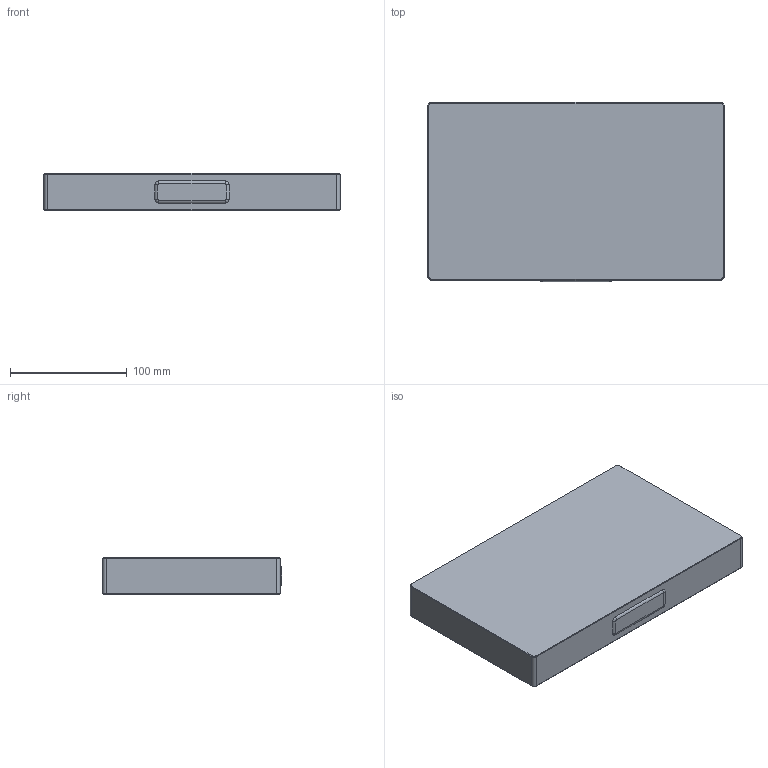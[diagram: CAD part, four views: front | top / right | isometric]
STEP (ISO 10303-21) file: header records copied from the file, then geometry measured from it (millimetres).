
FILE_DESCRIPTION(/* description */ (''),/* implementation_level */ '2;1');
FILE_NAME(/* name */ 'C:/Users/XPS Desktop/Dropbox/Engineering/Pierson Industries/SCPS/Distributable/Pierson_Workholding_MPS_610_Pallet.stp',/* time_stamp */ '2017-06-21T11:32:53-07:00',/* author */ (''),/* organization */ (''),/* preprocessor_version */ 'ST-DEVELOPER v16.13',/* originating_system */ 'Autodesk Translation Framework v6.1.1.50',/* authorisation */ '');
FILE_SCHEMA (('AUTOMOTIVE_DESIGN { 1 0 10303 214 3 1 1 }'));
Length unit declared in the file: inch
Products named in the file (1): FusionComponent
Bounding box: 254 x 153.67 x 31.75 mm (x, y, z)
Volume: 1198541.9 mm3; surface area: 106369 mm2
Topology: 1 solids, 1 shells, 54 faces, 118 edges, 73 vertices
Faces by surface type: plane 25, cylinder 16, cone 9, bspline 4
Full cylindrical faces by diameter (mm): 22.258 x2, 30.48 x1, 47.981 x1
Entity records: 1490 total; most frequent: CARTESIAN_POINT 273, DIRECTION 264, ORIENTED_EDGE 226, EDGE_CURVE 113, AXIS2_PLACEMENT_3D 100, VERTEX_POINT 73, EDGE_LOOP 66, LINE 64
